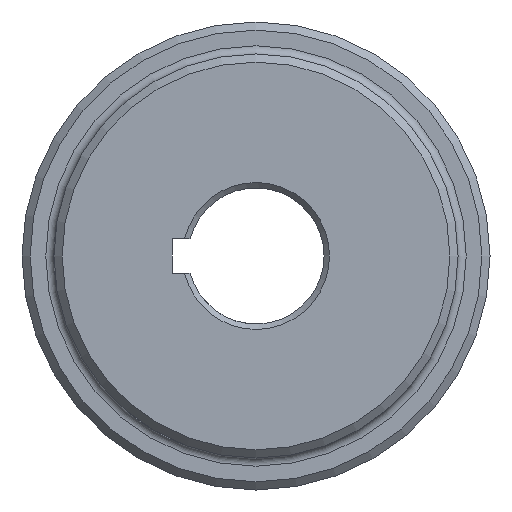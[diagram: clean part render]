
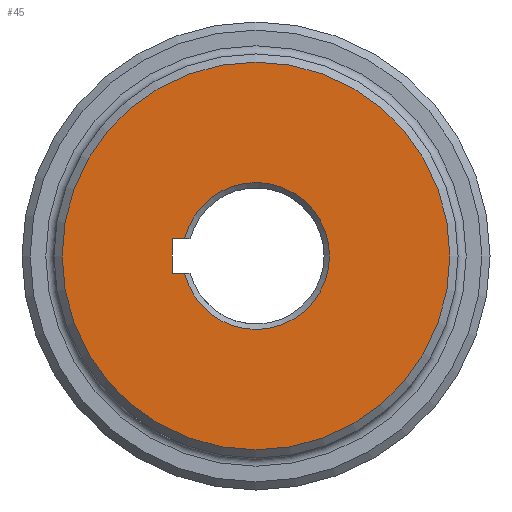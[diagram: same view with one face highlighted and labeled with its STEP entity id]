
A CAD part, left-side view. The second image highlights one B-rep face of the part: STEP entity #45.
In plain terms, the highlighted planar face has unit normal (-1, 0, 0).
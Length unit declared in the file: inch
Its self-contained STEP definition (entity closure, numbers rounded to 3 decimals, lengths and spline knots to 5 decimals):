
#29 = VECTOR ( 'NONE', #172, 39.37008 ) ;
#45 = ADVANCED_FACE ( 'NONE', ( #1001, #2209 ), #1816, .F. ) ;
#89 = CARTESIAN_POINT ( 'NONE',  ( 0., 0., -0.125 ) ) ;
#102 = EDGE_CURVE ( 'NONE', #2152, #2152, #2200, .T. ) ;
#172 = DIRECTION ( 'NONE',  ( 0., 1., 0. ) ) ;
#190 = CARTESIAN_POINT ( 'NONE',  ( 0., 0., -1.425 ) ) ;
#195 = CIRCLE ( 'NONE', #632, 0.54015 ) ;
#207 = DIRECTION ( 'NONE',  ( 0., 0., -1. ) ) ;
#232 = CARTESIAN_POINT ( 'NONE',  ( 0., 0.52549, -0.125 ) ) ;
#288 = CARTESIAN_POINT ( 'NONE',  ( 0., 0.61485, -0.125 ) ) ;
#313 = EDGE_CURVE ( 'NONE', #1410, #978, #482, .T. ) ;
#363 = DIRECTION ( 'NONE',  ( 1., 0., 0. ) ) ;
#371 = CARTESIAN_POINT ( 'NONE',  ( 0., 0.61485, 0.125 ) ) ;
#438 = LINE ( 'NONE', #1931, #29 ) ;
#448 = DIRECTION ( 'NONE',  ( 0., -1., 0. ) ) ;
#482 = LINE ( 'NONE', #89, #776 ) ;
#488 = EDGE_CURVE ( 'NONE', #1602, #1410, #1309, .T. ) ;
#489 = AXIS2_PLACEMENT_3D ( 'NONE', #1046, #1576, #1363 ) ;
#558 = ORIENTED_EDGE ( 'NONE', *, *, #488, .F. ) ;
#632 = AXIS2_PLACEMENT_3D ( 'NONE', #754, #363, #2069 ) ;
#754 = CARTESIAN_POINT ( 'NONE',  ( 0., 0., 0. ) ) ;
#776 = VECTOR ( 'NONE', #448, 39.37008 ) ;
#791 = CARTESIAN_POINT ( 'NONE',  ( 0., 0.52549, 0.125 ) ) ;
#959 = ORIENTED_EDGE ( 'NONE', *, *, #313, .F. ) ;
#978 = VERTEX_POINT ( 'NONE', #232 ) ;
#1001 = FACE_OUTER_BOUND ( 'NONE', #2218, .T. ) ;
#1015 = AXIS2_PLACEMENT_3D ( 'NONE', #1670, #1206, #207 ) ;
#1046 = CARTESIAN_POINT ( 'NONE',  ( 0., 0., 0. ) ) ;
#1070 = DIRECTION ( 'NONE',  ( 0., 0., -1. ) ) ;
#1167 = VECTOR ( 'NONE', #1070, 39.37008 ) ;
#1206 = DIRECTION ( 'NONE',  ( 1., 0., 0. ) ) ;
#1304 = ORIENTED_EDGE ( 'NONE', *, *, #1487, .T. ) ;
#1309 = LINE ( 'NONE', #1345, #1167 ) ;
#1345 = CARTESIAN_POINT ( 'NONE',  ( 0., 0.61485, -0.125 ) ) ;
#1363 = DIRECTION ( 'NONE',  ( 0., 0., -1. ) ) ;
#1390 = EDGE_LOOP ( 'NONE', ( #2004, #1304, #959, #558 ) ) ;
#1393 = VERTEX_POINT ( 'NONE', #791 ) ;
#1410 = VERTEX_POINT ( 'NONE', #288 ) ;
#1412 = EDGE_CURVE ( 'NONE', #1393, #1602, #438, .T. ) ;
#1487 = EDGE_CURVE ( 'NONE', #1393, #978, #195, .T. ) ;
#1576 = DIRECTION ( 'NONE',  ( -1., 0., 0. ) ) ;
#1602 = VERTEX_POINT ( 'NONE', #371 ) ;
#1670 = CARTESIAN_POINT ( 'NONE',  ( 0., 0., 0. ) ) ;
#1816 = PLANE ( 'NONE',  #1015 ) ;
#1931 = CARTESIAN_POINT ( 'NONE',  ( 0., 0., 0.125 ) ) ;
#2004 = ORIENTED_EDGE ( 'NONE', *, *, #1412, .F. ) ;
#2069 = DIRECTION ( 'NONE',  ( 0., 0., -1. ) ) ;
#2082 = ORIENTED_EDGE ( 'NONE', *, *, #102, .T. ) ;
#2152 = VERTEX_POINT ( 'NONE', #190 ) ;
#2200 = CIRCLE ( 'NONE', #489, 1.425 ) ;
#2209 = FACE_BOUND ( 'NONE', #1390, .T. ) ;
#2218 = EDGE_LOOP ( 'NONE', ( #2082 ) ) ;
